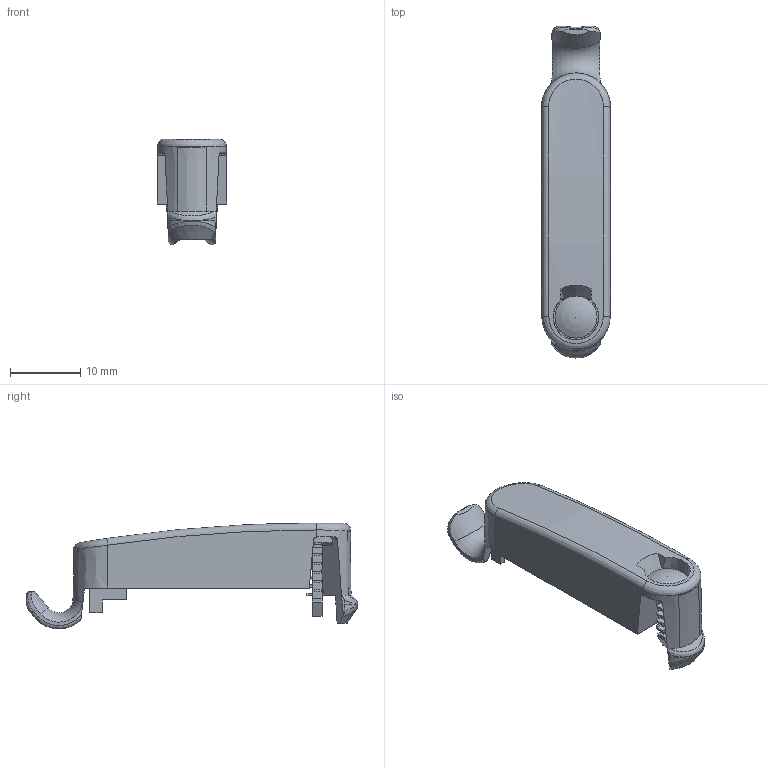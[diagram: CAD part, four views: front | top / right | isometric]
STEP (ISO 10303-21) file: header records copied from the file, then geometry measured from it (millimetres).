
FILE_DESCRIPTION(/* description */ (''),/* implementation_level */ '2;1');
FILE_NAME(/* name */ 'C:\Vault_local\Designs\Stock\3D pour clients\préparations\capteur fenetre 2011\PWB01501.stp',/* time_stamp */ '2021-04-06T12:04:46+02:00',/* author */ ('fbros'),/* organization */ (''),/* preprocessor_version */ 'ST-DEVELOPER v17',/* originating_system */ 'Autodesk Inventor 2018',/* authorisation */ '');
FILE_SCHEMA (('AUTOMOTIVE_DESIGN { 1 0 10303 214 3 1 1 }'));
Length unit declared in the file: millimetre
Products named in the file (1): PWA01501
Bounding box: 9.9 x 47.39 x 15.11 mm (x, y, z)
Volume: 2414 mm3; surface area: 2937.1 mm2
Topology: 1 solids, 2 shells, 360 faces, 1004 edges, 662 vertices
Faces by surface type: plane 253, cylinder 62, cone 24, bspline 14, sphere 4, torus 3
Full cylindrical faces by diameter (mm): 0.8 x4, 6 x1
Entity records: 14600 total; most frequent: CARTESIAN_POINT 4860, ORIENTED_EDGE 2006, DIRECTION 1816, EDGE_CURVE 1003, LINE 664, VECTOR 664, VERTEX_POINT 662, AXIS2_PLACEMENT_3D 576
